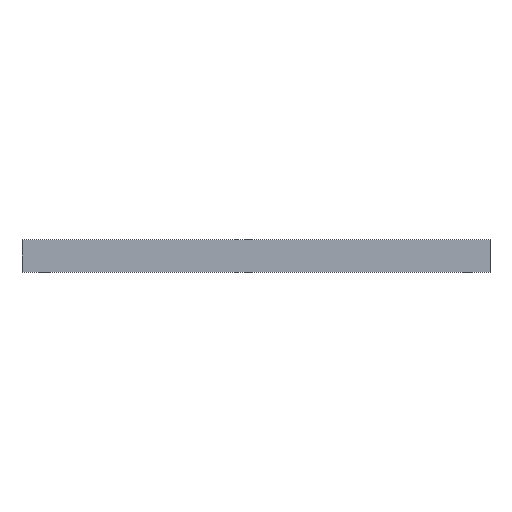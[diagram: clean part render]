
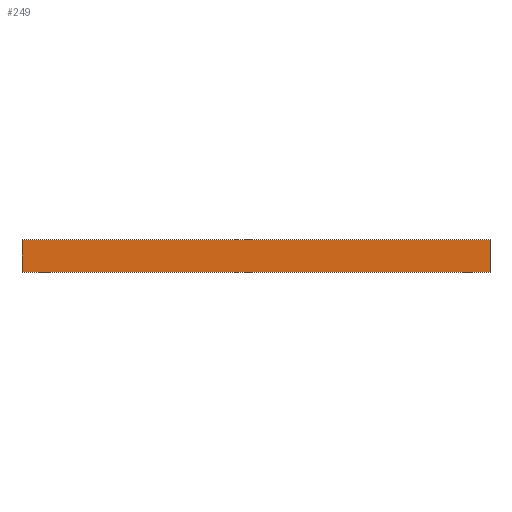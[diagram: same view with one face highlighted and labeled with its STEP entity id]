
A CAD part, left-side view. The second image highlights one B-rep face of the part: STEP entity #249.
In plain terms, the highlighted planar face has unit normal (-1, 0, 0).
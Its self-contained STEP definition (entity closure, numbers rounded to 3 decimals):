
#21 = EDGE_CURVE('',#22,#24,#26,.T.);
#22 = VERTEX_POINT('',#23);
#23 = CARTESIAN_POINT('',(-60.,-105.,14.5));
#24 = VERTEX_POINT('',#25);
#25 = CARTESIAN_POINT('',(-60.,-105.,0.));
#26 = SURFACE_CURVE('',#27,(#31,#43),.PCURVE_S1.);
#27 = LINE('',#28,#29);
#28 = CARTESIAN_POINT('',(-60.,-105.,14.5));
#29 = VECTOR('',#30,1.);
#30 = DIRECTION('',(0.,0.,-1.));
#31 = PCURVE('',#32,#37);
#32 = PLANE('',#33);
#33 = AXIS2_PLACEMENT_3D('',#34,#35,#36);
#34 = CARTESIAN_POINT('',(-60.,-105.,0.));
#35 = DIRECTION('',(0.,1.,0.));
#36 = DIRECTION('',(1.,0.,0.));
#37 = DEFINITIONAL_REPRESENTATION('',(#38),#42);
#38 = LINE('',#39,#40);
#39 = CARTESIAN_POINT('',(0.,-14.5));
#40 = VECTOR('',#41,1.);
#41 = DIRECTION('',(0.,1.));
#42 = ( GEOMETRIC_REPRESENTATION_CONTEXT(2) 
PARAMETRIC_REPRESENTATION_CONTEXT() REPRESENTATION_CONTEXT('2D SPACE',''
  ) );
#43 = PCURVE('',#44,#49);
#44 = PLANE('',#45);
#45 = AXIS2_PLACEMENT_3D('',#46,#47,#48);
#46 = CARTESIAN_POINT('',(-60.,105.,0.));
#47 = DIRECTION('',(1.,0.,-0.));
#48 = DIRECTION('',(0.,-1.,0.));
#49 = DEFINITIONAL_REPRESENTATION('',(#50),#54);
#50 = LINE('',#51,#52);
#51 = CARTESIAN_POINT('',(210.,-14.5));
#52 = VECTOR('',#53,1.);
#53 = DIRECTION('',(0.,1.));
#54 = ( GEOMETRIC_REPRESENTATION_CONTEXT(2) 
PARAMETRIC_REPRESENTATION_CONTEXT() REPRESENTATION_CONTEXT('2D SPACE',''
  ) );
#72 = PLANE('',#73);
#73 = AXIS2_PLACEMENT_3D('',#74,#75,#76);
#74 = CARTESIAN_POINT('',(-60.,105.,14.5));
#75 = DIRECTION('',(-0.,0.,1.));
#76 = DIRECTION('',(1.,0.,0.));
#238 = PLANE('',#239);
#239 = AXIS2_PLACEMENT_3D('',#240,#241,#242);
#240 = CARTESIAN_POINT('',(0.,0.,0.));
#241 = DIRECTION('',(0.,0.,1.));
#242 = DIRECTION('',(1.,0.,-0.));
#249 = ADVANCED_FACE('',(#250),#44,.F.);
#250 = FACE_BOUND('',#251,.F.);
#251 = EDGE_LOOP('',(#252,#282,#303,#304));
#252 = ORIENTED_EDGE('',*,*,#253,.F.);
#253 = EDGE_CURVE('',#254,#256,#258,.T.);
#254 = VERTEX_POINT('',#255);
#255 = CARTESIAN_POINT('',(-60.,105.,14.5));
#256 = VERTEX_POINT('',#257);
#257 = CARTESIAN_POINT('',(-60.,105.,0.));
#258 = SURFACE_CURVE('',#259,(#263,#270),.PCURVE_S1.);
#259 = LINE('',#260,#261);
#260 = CARTESIAN_POINT('',(-60.,105.,14.5));
#261 = VECTOR('',#262,1.);
#262 = DIRECTION('',(0.,0.,-1.));
#263 = PCURVE('',#44,#264);
#264 = DEFINITIONAL_REPRESENTATION('',(#265),#269);
#265 = LINE('',#266,#267);
#266 = CARTESIAN_POINT('',(0.,-14.5));
#267 = VECTOR('',#268,1.);
#268 = DIRECTION('',(0.,1.));
#269 = ( GEOMETRIC_REPRESENTATION_CONTEXT(2) 
PARAMETRIC_REPRESENTATION_CONTEXT() REPRESENTATION_CONTEXT('2D SPACE',''
  ) );
#270 = PCURVE('',#271,#276);
#271 = PLANE('',#272);
#272 = AXIS2_PLACEMENT_3D('',#273,#274,#275);
#273 = CARTESIAN_POINT('',(60.,105.,0.));
#274 = DIRECTION('',(0.,-1.,0.));
#275 = DIRECTION('',(-1.,0.,0.));
#276 = DEFINITIONAL_REPRESENTATION('',(#277),#281);
#277 = LINE('',#278,#279);
#278 = CARTESIAN_POINT('',(120.,-14.5));
#279 = VECTOR('',#280,1.);
#280 = DIRECTION('',(0.,1.));
#281 = ( GEOMETRIC_REPRESENTATION_CONTEXT(2) 
PARAMETRIC_REPRESENTATION_CONTEXT() REPRESENTATION_CONTEXT('2D SPACE',''
  ) );
#282 = ORIENTED_EDGE('',*,*,#283,.T.);
#283 = EDGE_CURVE('',#254,#22,#284,.T.);
#284 = SURFACE_CURVE('',#285,(#289,#296),.PCURVE_S1.);
#285 = LINE('',#286,#287);
#286 = CARTESIAN_POINT('',(-60.,105.,14.5));
#287 = VECTOR('',#288,1.);
#288 = DIRECTION('',(0.,-1.,0.));
#289 = PCURVE('',#44,#290);
#290 = DEFINITIONAL_REPRESENTATION('',(#291),#295);
#291 = LINE('',#292,#293);
#292 = CARTESIAN_POINT('',(0.,-14.5));
#293 = VECTOR('',#294,1.);
#294 = DIRECTION('',(1.,0.));
#295 = ( GEOMETRIC_REPRESENTATION_CONTEXT(2) 
PARAMETRIC_REPRESENTATION_CONTEXT() REPRESENTATION_CONTEXT('2D SPACE',''
  ) );
#296 = PCURVE('',#72,#297);
#297 = DEFINITIONAL_REPRESENTATION('',(#298),#302);
#298 = LINE('',#299,#300);
#299 = CARTESIAN_POINT('',(0.,0.));
#300 = VECTOR('',#301,1.);
#301 = DIRECTION('',(0.,-1.));
#302 = ( GEOMETRIC_REPRESENTATION_CONTEXT(2) 
PARAMETRIC_REPRESENTATION_CONTEXT() REPRESENTATION_CONTEXT('2D SPACE',''
  ) );
#303 = ORIENTED_EDGE('',*,*,#21,.T.);
#304 = ORIENTED_EDGE('',*,*,#305,.F.);
#305 = EDGE_CURVE('',#256,#24,#306,.T.);
#306 = SURFACE_CURVE('',#307,(#311,#318),.PCURVE_S1.);
#307 = LINE('',#308,#309);
#308 = CARTESIAN_POINT('',(-60.,105.,0.));
#309 = VECTOR('',#310,1.);
#310 = DIRECTION('',(0.,-1.,0.));
#311 = PCURVE('',#44,#312);
#312 = DEFINITIONAL_REPRESENTATION('',(#313),#317);
#313 = LINE('',#314,#315);
#314 = CARTESIAN_POINT('',(0.,0.));
#315 = VECTOR('',#316,1.);
#316 = DIRECTION('',(1.,0.));
#317 = ( GEOMETRIC_REPRESENTATION_CONTEXT(2) 
PARAMETRIC_REPRESENTATION_CONTEXT() REPRESENTATION_CONTEXT('2D SPACE',''
  ) );
#318 = PCURVE('',#238,#319);
#319 = DEFINITIONAL_REPRESENTATION('',(#320),#324);
#320 = LINE('',#321,#322);
#321 = CARTESIAN_POINT('',(-60.,105.));
#322 = VECTOR('',#323,1.);
#323 = DIRECTION('',(0.,-1.));
#324 = ( GEOMETRIC_REPRESENTATION_CONTEXT(2) 
PARAMETRIC_REPRESENTATION_CONTEXT() REPRESENTATION_CONTEXT('2D SPACE',''
  ) );
